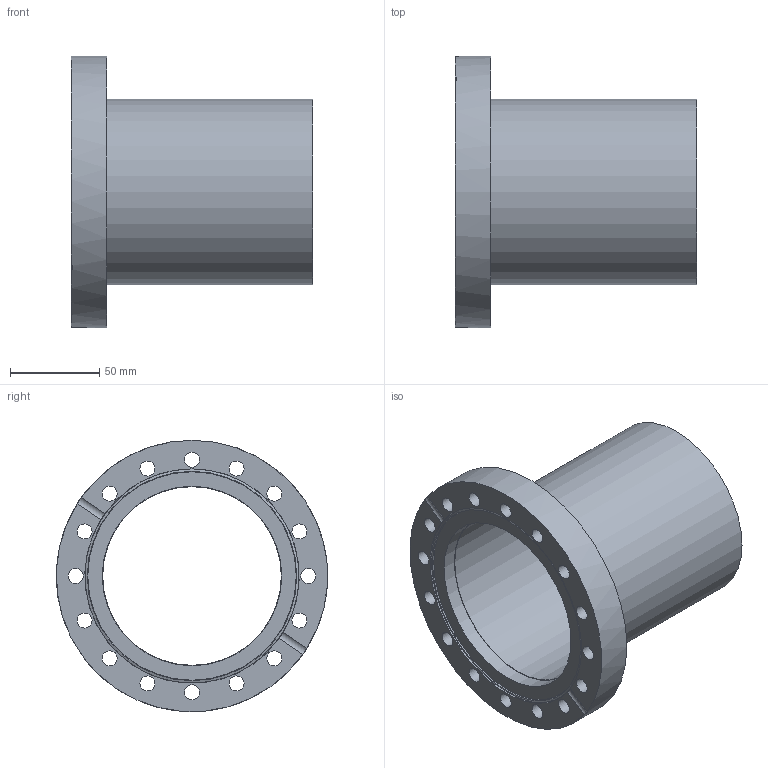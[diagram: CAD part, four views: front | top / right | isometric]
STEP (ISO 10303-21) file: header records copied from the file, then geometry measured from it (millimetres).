
FILE_DESCRIPTION( ( 'Unknown' ), '1' );
FILE_NAME( 'X:/Daten ( aktueller Bestand )/Projekte und Zeichnungen/Solid Edge/STP-Dateien/CF-Teile/7574F4.stp', 'Unknown', ( 'Unknown' ), ( 'Unknown' ), 'PSStep 14.0', 'Unknown', ' ' );
FILE_SCHEMA( ( 'AUTOMOTIVE_DESIGN { 1 0 10303 214 1 1 1 1 }' ) );
Length unit declared in the file: millimetre
Products named in the file (5): 7514F; 7574F-1; Assem1
Assembly tree (4 placements, depth 3):
  Assem1
    7514F
      7514F
    7574F-1
      7574F-1
Bounding box: 135 x 152 x 152 mm (x, y, z)
Volume: 255532.5 mm3; surface area: 124887.2 mm2
Topology: 2 solids, 2 shells, 33 faces, 98 edges, 70 vertices
Faces by surface type: cylinder 24, plane 7, cone 2
Full cylindrical faces by diameter (mm): 8.4 x16, 100 x1, 100.5 x1, 104 x1, 104.3 x1, 120 x1, 152 x1
Entity records: 1368 total; most frequent: CARTESIAN_POINT 216, DIRECTION 180, ORIENTED_EDGE 112, EDGE_LOOP 94, AXIS2_PLACEMENT_3D 88, EDGE_CURVE 56, FACE_OUTER_BOUND 55, VERTEX_POINT 52
